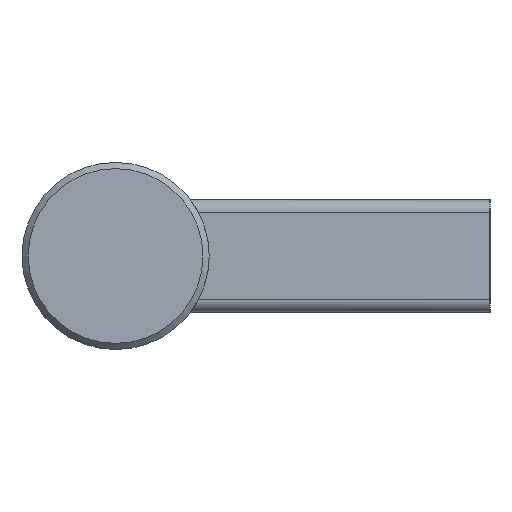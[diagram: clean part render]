
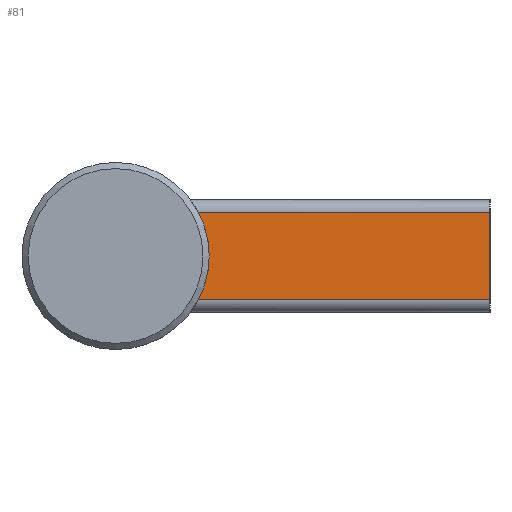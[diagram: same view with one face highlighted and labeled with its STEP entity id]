
A CAD part, left-side view. The second image highlights one B-rep face of the part: STEP entity #81.
In plain terms, the highlighted planar face has unit normal (-1, 0, 0).
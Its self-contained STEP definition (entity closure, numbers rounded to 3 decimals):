
#81 = ADVANCED_FACE( '', ( #121 ), #122, .F. );
#121 = FACE_OUTER_BOUND( '', #186, .T. );
#122 = PLANE( '', #187 );
#186 = EDGE_LOOP( '', ( #280, #281, #282, #283 ) );
#187 = AXIS2_PLACEMENT_3D( '', #284, #285, #286 );
#280 = ORIENTED_EDGE( '', *, *, #453, .F. );
#281 = ORIENTED_EDGE( '', *, *, #444, .T. );
#282 = ORIENTED_EDGE( '', *, *, #455, .T. );
#283 = ORIENTED_EDGE( '', *, *, #456, .T. );
#284 = CARTESIAN_POINT( '', ( -265., 60., -7. ) );
#285 = DIRECTION( '', ( 1., 0., 0. ) );
#286 = DIRECTION( '', ( 0., 0., -1. ) );
#444 = EDGE_CURVE( '', #517, #514, #518, .T. );
#453 = EDGE_CURVE( '', #517, #534, #535, .T. );
#455 = EDGE_CURVE( '', #514, #537, #538, .T. );
#456 = EDGE_CURVE( '', #537, #534, #539, .T. );
#514 = VERTEX_POINT( '', #668 );
#517 = VERTEX_POINT( '', #686 );
#518 = CIRCLE( '', #687, 15. );
#534 = VERTEX_POINT( '', #747 );
#535 = LINE( '', #748, #749 );
#537 = VERTEX_POINT( '', #751 );
#538 = LINE( '', #752, #753 );
#539 = LINE( '', #754, #755 );
#668 = CARTESIAN_POINT( '', ( -265., 46.734, -7. ) );
#686 = CARTESIAN_POINT( '', ( -265., 46.734, 7. ) );
#687 = AXIS2_PLACEMENT_3D( '', #844, #845, #846 );
#747 = CARTESIAN_POINT( '', ( -265., 0., 7. ) );
#748 = CARTESIAN_POINT( '', ( -265., 60., 7. ) );
#749 = VECTOR( '', #856, 1000. );
#751 = CARTESIAN_POINT( '', ( -265., 0., -7. ) );
#752 = CARTESIAN_POINT( '', ( -265., 60., -7. ) );
#753 = VECTOR( '', #860, 1000. );
#754 = CARTESIAN_POINT( '', ( -265., 0., -7. ) );
#755 = VECTOR( '', #861, 1000. );
#844 = CARTESIAN_POINT( '', ( -265., 60., 0. ) );
#845 = DIRECTION( '', ( 1., 0., 0. ) );
#846 = DIRECTION( '', ( 0., 0., -1. ) );
#856 = DIRECTION( '', ( 0., -1., 0. ) );
#860 = DIRECTION( '', ( 0., -1., 0. ) );
#861 = DIRECTION( '', ( 0., 0., 1. ) );
